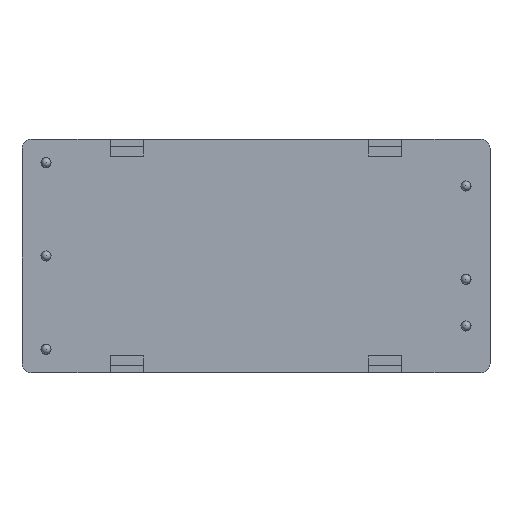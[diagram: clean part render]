
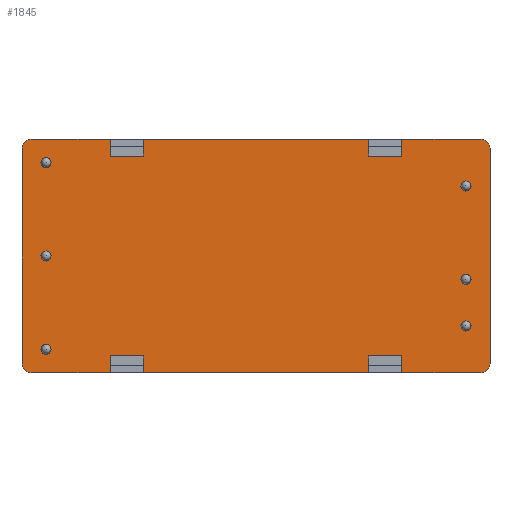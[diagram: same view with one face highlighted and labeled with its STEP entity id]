
A CAD part, top view. The second image highlights one B-rep face of the part: STEP entity #1845.
In plain terms, the highlighted planar face has unit normal (0, 0, 1).
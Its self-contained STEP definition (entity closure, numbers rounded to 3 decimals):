
#73=LINE('',#2714,#257);
#76=LINE('',#2719,#260);
#81=LINE('',#2728,#265);
#89=LINE('',#2746,#273);
#92=LINE('',#2751,#276);
#97=LINE('',#2760,#281);
#105=LINE('',#2777,#289);
#109=LINE('',#2785,#293);
#112=LINE('',#2790,#296);
#121=LINE('',#2809,#305);
#126=LINE('',#2819,#310);
#130=LINE('',#2825,#314);
#133=LINE('',#2831,#317);
#134=LINE('',#2834,#318);
#138=LINE('',#2840,#322);
#141=LINE('',#2846,#325);
#142=LINE('',#2849,#326);
#146=LINE('',#2855,#330);
#181=LINE('',#3001,#365);
#185=LINE('',#3012,#369);
#257=VECTOR('',#2183,3.6);
#260=VECTOR('',#2188,1.85);
#265=VECTOR('',#2195,1.85);
#273=VECTOR('',#2207,3.6);
#276=VECTOR('',#2212,1.85);
#281=VECTOR('',#2219,1.85);
#289=VECTOR('',#2231,1.85);
#293=VECTOR('',#2237,3.6);
#296=VECTOR('',#2242,1.85);
#305=VECTOR('',#2255,1.85);
#310=VECTOR('',#2262,1.85);
#314=VECTOR('',#2268,3.6);
#317=VECTOR('',#2273,8.6);
#318=VECTOR('',#2276,8.6);
#322=VECTOR('',#2282,24.5);
#325=VECTOR('',#2287,8.6);
#326=VECTOR('',#2290,8.6);
#330=VECTOR('',#2296,24.5);
#365=VECTOR('',#2461,23.4);
#369=VECTOR('',#2475,23.4);
#441=PLANE('',#2005);
#485=FACE_BOUND('',#714,.T.);
#486=FACE_BOUND('',#715,.T.);
#487=FACE_BOUND('',#716,.T.);
#488=FACE_BOUND('',#717,.T.);
#489=FACE_BOUND('',#718,.T.);
#490=FACE_BOUND('',#719,.T.);
#579=FACE_OUTER_BOUND('',#713,.T.);
#713=EDGE_LOOP('',(#1615,#1616,#1617,#1618,#1619,#1620,#1621,#1622,#1623,
#1624,#1625,#1626,#1627,#1628,#1629,#1630,#1631,#1632,#1633,#1634,#1635,
#1636,#1637,#1638));
#714=EDGE_LOOP('',(#1639));
#715=EDGE_LOOP('',(#1640));
#716=EDGE_LOOP('',(#1641));
#717=EDGE_LOOP('',(#1642));
#718=EDGE_LOOP('',(#1643));
#719=EDGE_LOOP('',(#1644));
#758=CIRCLE('',#1945,0.55);
#760=CIRCLE('',#1948,0.55);
#762=CIRCLE('',#1951,0.55);
#764=CIRCLE('',#1954,0.55);
#766=CIRCLE('',#1957,0.55);
#768=CIRCLE('',#1960,0.55);
#785=CIRCLE('',#1997,1.025);
#786=CIRCLE('',#1999,1.025);
#787=CIRCLE('',#2002,1.025);
#788=CIRCLE('',#2004,1.025);
#855=VERTEX_POINT('',#2711);
#856=VERTEX_POINT('',#2713);
#857=VERTEX_POINT('',#2718);
#860=VERTEX_POINT('',#2726);
#867=VERTEX_POINT('',#2743);
#868=VERTEX_POINT('',#2745);
#869=VERTEX_POINT('',#2750);
#872=VERTEX_POINT('',#2758);
#878=VERTEX_POINT('',#2774);
#879=VERTEX_POINT('',#2776);
#882=VERTEX_POINT('',#2784);
#883=VERTEX_POINT('',#2789);
#890=VERTEX_POINT('',#2806);
#891=VERTEX_POINT('',#2808);
#894=VERTEX_POINT('',#2816);
#895=VERTEX_POINT('',#2818);
#898=VERTEX_POINT('',#2829);
#899=VERTEX_POINT('',#2833);
#902=VERTEX_POINT('',#2844);
#903=VERTEX_POINT('',#2848);
#918=VERTEX_POINT('',#2893);
#920=VERTEX_POINT('',#2898);
#922=VERTEX_POINT('',#2903);
#924=VERTEX_POINT('',#2908);
#926=VERTEX_POINT('',#2913);
#928=VERTEX_POINT('',#2918);
#949=VERTEX_POINT('',#2999);
#950=VERTEX_POINT('',#3000);
#951=VERTEX_POINT('',#3007);
#952=VERTEX_POINT('',#3011);
#1035=EDGE_CURVE('',#856,#855,#73,.T.);
#1038=EDGE_CURVE('',#857,#856,#76,.T.);
#1043=EDGE_CURVE('',#855,#860,#81,.T.);
#1051=EDGE_CURVE('',#868,#867,#89,.T.);
#1054=EDGE_CURVE('',#869,#868,#92,.T.);
#1059=EDGE_CURVE('',#867,#872,#97,.T.);
#1067=EDGE_CURVE('',#879,#878,#105,.T.);
#1071=EDGE_CURVE('',#882,#879,#109,.T.);
#1074=EDGE_CURVE('',#883,#882,#112,.T.);
#1083=EDGE_CURVE('',#891,#890,#121,.T.);
#1088=EDGE_CURVE('',#895,#894,#126,.T.);
#1092=EDGE_CURVE('',#890,#895,#130,.T.);
#1095=EDGE_CURVE('',#898,#872,#133,.T.);
#1096=EDGE_CURVE('',#857,#899,#134,.T.);
#1100=EDGE_CURVE('',#869,#860,#138,.T.);
#1103=EDGE_CURVE('',#902,#894,#141,.T.);
#1104=EDGE_CURVE('',#883,#903,#142,.T.);
#1108=EDGE_CURVE('',#891,#878,#146,.T.);
#1128=EDGE_CURVE('',#918,#918,#758,.T.);
#1130=EDGE_CURVE('',#920,#920,#760,.T.);
#1132=EDGE_CURVE('',#922,#922,#762,.T.);
#1134=EDGE_CURVE('',#924,#924,#764,.T.);
#1136=EDGE_CURVE('',#926,#926,#766,.T.);
#1138=EDGE_CURVE('',#928,#928,#768,.T.);
#1179=EDGE_CURVE('',#949,#950,#181,.T.);
#1182=EDGE_CURVE('',#950,#898,#785,.T.);
#1183=EDGE_CURVE('',#899,#951,#786,.T.);
#1185=EDGE_CURVE('',#951,#952,#185,.T.);
#1187=EDGE_CURVE('',#952,#902,#787,.T.);
#1188=EDGE_CURVE('',#903,#949,#788,.T.);
#1615=ORIENTED_EDGE('',*,*,#1043,.T.);
#1616=ORIENTED_EDGE('',*,*,#1100,.F.);
#1617=ORIENTED_EDGE('',*,*,#1054,.T.);
#1618=ORIENTED_EDGE('',*,*,#1051,.T.);
#1619=ORIENTED_EDGE('',*,*,#1059,.T.);
#1620=ORIENTED_EDGE('',*,*,#1095,.F.);
#1621=ORIENTED_EDGE('',*,*,#1182,.F.);
#1622=ORIENTED_EDGE('',*,*,#1179,.F.);
#1623=ORIENTED_EDGE('',*,*,#1188,.F.);
#1624=ORIENTED_EDGE('',*,*,#1104,.F.);
#1625=ORIENTED_EDGE('',*,*,#1074,.T.);
#1626=ORIENTED_EDGE('',*,*,#1071,.T.);
#1627=ORIENTED_EDGE('',*,*,#1067,.T.);
#1628=ORIENTED_EDGE('',*,*,#1108,.F.);
#1629=ORIENTED_EDGE('',*,*,#1083,.T.);
#1630=ORIENTED_EDGE('',*,*,#1092,.T.);
#1631=ORIENTED_EDGE('',*,*,#1088,.T.);
#1632=ORIENTED_EDGE('',*,*,#1103,.F.);
#1633=ORIENTED_EDGE('',*,*,#1187,.F.);
#1634=ORIENTED_EDGE('',*,*,#1185,.F.);
#1635=ORIENTED_EDGE('',*,*,#1183,.F.);
#1636=ORIENTED_EDGE('',*,*,#1096,.F.);
#1637=ORIENTED_EDGE('',*,*,#1038,.T.);
#1638=ORIENTED_EDGE('',*,*,#1035,.T.);
#1639=ORIENTED_EDGE('',*,*,#1128,.T.);
#1640=ORIENTED_EDGE('',*,*,#1130,.T.);
#1641=ORIENTED_EDGE('',*,*,#1132,.T.);
#1642=ORIENTED_EDGE('',*,*,#1134,.T.);
#1643=ORIENTED_EDGE('',*,*,#1136,.T.);
#1644=ORIENTED_EDGE('',*,*,#1138,.T.);
#1845=ADVANCED_FACE('',(#579,#485,#486,#487,#488,#489,#490),#441,.T.);
#1945=AXIS2_PLACEMENT_3D('',#2894,#2335,#2336);
#1948=AXIS2_PLACEMENT_3D('',#2899,#2341,#2342);
#1951=AXIS2_PLACEMENT_3D('',#2904,#2347,#2348);
#1954=AXIS2_PLACEMENT_3D('',#2909,#2353,#2354);
#1957=AXIS2_PLACEMENT_3D('',#2914,#2359,#2360);
#1960=AXIS2_PLACEMENT_3D('',#2919,#2365,#2366);
#1997=AXIS2_PLACEMENT_3D('',#3005,#2466,#2467);
#1999=AXIS2_PLACEMENT_3D('',#3008,#2470,#2471);
#2002=AXIS2_PLACEMENT_3D('',#3015,#2479,#2480);
#2004=AXIS2_PLACEMENT_3D('',#3017,#2483,#2484);
#2005=AXIS2_PLACEMENT_3D('',#3018,#2485,#2486);
#2183=DIRECTION('',(1.,0.,0.));
#2188=DIRECTION('',(0.,1.,0.));
#2195=DIRECTION('',(0.,-1.,0.));
#2207=DIRECTION('',(1.,0.,0.));
#2212=DIRECTION('',(0.,1.,0.));
#2219=DIRECTION('',(0.,-1.,0.));
#2231=DIRECTION('',(0.,1.,0.));
#2237=DIRECTION('',(-1.,0.,0.));
#2242=DIRECTION('',(0.,-1.,0.));
#2255=DIRECTION('',(0.,-1.,0.));
#2262=DIRECTION('',(0.,1.,0.));
#2268=DIRECTION('',(-1.,0.,0.));
#2273=DIRECTION('',(-1.,0.,0.));
#2276=DIRECTION('',(-1.,0.,0.));
#2282=DIRECTION('',(-1.,0.,0.));
#2287=DIRECTION('',(1.,0.,0.));
#2290=DIRECTION('',(1.,0.,0.));
#2296=DIRECTION('',(1.,0.,0.));
#2335=DIRECTION('center_axis',(0.,0.,
-1.));
#2336=DIRECTION('ref_axis',(-1.,0.,0.));
#2341=DIRECTION('center_axis',(0.,0.,
-1.));
#2342=DIRECTION('ref_axis',(-1.,0.,0.));
#2347=DIRECTION('center_axis',(0.,0.,
-1.));
#2348=DIRECTION('ref_axis',(-1.,0.,0.));
#2353=DIRECTION('center_axis',(0.,0.,
-1.));
#2354=DIRECTION('ref_axis',(-1.,0.,0.));
#2359=DIRECTION('center_axis',(0.,0.,
-1.));
#2360=DIRECTION('ref_axis',(-1.,0.,0.));
#2365=DIRECTION('center_axis',(0.,0.,
-1.));
#2366=DIRECTION('ref_axis',(-1.,0.,0.));
#2461=DIRECTION('',(0.,-1.,0.));
#2466=DIRECTION('center_axis',(0.,0.,-1.));
#2467=DIRECTION('ref_axis',(0.,1.,0.));
#2470=DIRECTION('center_axis',(0.,0.,-1.));
#2471=DIRECTION('ref_axis',(1.,0.,0.));
#2475=DIRECTION('',(0.,1.,0.));
#2479=DIRECTION('center_axis',(0.,0.,-1.));
#2480=DIRECTION('ref_axis',(0.,-1.,0.));
#2483=DIRECTION('center_axis',(0.,0.,-1.));
#2484=DIRECTION('ref_axis',(-1.,0.,0.));
#2485=DIRECTION('center_axis',(0.,0.,
1.));
#2486=DIRECTION('ref_axis',(1.,0.,0.));
#2711=CARTESIAN_POINT('',(-12.25,-10.875,11.));
#2713=CARTESIAN_POINT('',(-15.85,-10.875,11.));
#2714=CARTESIAN_POINT('',(-6.125,-10.875,11.));
#2718=CARTESIAN_POINT('',(-15.85,-12.725,11.));
#2719=CARTESIAN_POINT('',(-15.85,-5.438,11.));
#2726=CARTESIAN_POINT('',(-12.25,-12.725,11.));
#2728=CARTESIAN_POINT('',(-12.25,-6.363,11.));
#2743=CARTESIAN_POINT('',(15.85,-10.875,11.));
#2745=CARTESIAN_POINT('',(12.25,-10.875,11.));
#2746=CARTESIAN_POINT('',(7.925,-10.875,11.));
#2750=CARTESIAN_POINT('',(12.25,-12.725,11.));
#2751=CARTESIAN_POINT('',(12.25,-5.438,11.));
#2758=CARTESIAN_POINT('',(15.85,-12.725,11.));
#2760=CARTESIAN_POINT('',(15.85,-6.363,11.));
#2774=CARTESIAN_POINT('',(12.25,12.725,11.));
#2776=CARTESIAN_POINT('',(12.25,10.875,11.));
#2777=CARTESIAN_POINT('',(12.25,6.363,11.));
#2784=CARTESIAN_POINT('',(15.85,10.875,11.));
#2785=CARTESIAN_POINT('',(6.125,10.875,11.));
#2789=CARTESIAN_POINT('',(15.85,12.725,11.));
#2790=CARTESIAN_POINT('',(15.85,5.438,11.));
#2806=CARTESIAN_POINT('',(-12.25,10.875,11.));
#2808=CARTESIAN_POINT('',(-12.25,12.725,11.));
#2809=CARTESIAN_POINT('',(-12.25,5.438,11.));
#2816=CARTESIAN_POINT('',(-15.85,12.725,11.));
#2818=CARTESIAN_POINT('',(-15.85,10.875,11.));
#2819=CARTESIAN_POINT('',(-15.85,6.363,11.));
#2825=CARTESIAN_POINT('',(-7.925,10.875,11.));
#2829=CARTESIAN_POINT('',(24.45,-12.725,11.));
#2831=CARTESIAN_POINT('',(24.45,-12.725,11.));
#2833=CARTESIAN_POINT('',(-24.45,-12.725,11.));
#2834=CARTESIAN_POINT('',(24.45,-12.725,11.));
#2840=CARTESIAN_POINT('',(24.45,-12.725,11.));
#2844=CARTESIAN_POINT('',(-24.45,12.725,11.));
#2846=CARTESIAN_POINT('',(-24.45,12.725,11.));
#2848=CARTESIAN_POINT('',(24.45,12.725,11.));
#2849=CARTESIAN_POINT('',(-24.45,12.725,11.));
#2855=CARTESIAN_POINT('',(-24.45,12.725,11.));
#2893=CARTESIAN_POINT('',(-22.31,0.,11.));
#2894=CARTESIAN_POINT('Origin',(-22.86,0.,11.));
#2898=CARTESIAN_POINT('',(23.41,-7.62,11.));
#2899=CARTESIAN_POINT('Origin',(22.86,-7.62,11.));
#2903=CARTESIAN_POINT('',(23.41,7.62,11.));
#2904=CARTESIAN_POINT('Origin',(22.86,7.62,11.));
#2908=CARTESIAN_POINT('',(23.41,-2.54,11.));
#2909=CARTESIAN_POINT('Origin',(22.86,-2.54,11.));
#2913=CARTESIAN_POINT('',(-22.31,10.16,11.));
#2914=CARTESIAN_POINT('Origin',(-22.86,10.16,11.));
#2918=CARTESIAN_POINT('',(-22.31,-10.16,11.));
#2919=CARTESIAN_POINT('Origin',(-22.86,-10.16,11.));
#2999=CARTESIAN_POINT('',(25.475,11.7,11.));
#3000=CARTESIAN_POINT('',(25.475,-11.7,11.));
#3001=CARTESIAN_POINT('',(25.475,11.7,11.));
#3005=CARTESIAN_POINT('Origin',(24.45,-11.7,11.));
#3007=CARTESIAN_POINT('',(-25.475,-11.7,11.));
#3008=CARTESIAN_POINT('Origin',(-24.45,-11.7,11.));
#3011=CARTESIAN_POINT('',(-25.475,11.7,11.));
#3012=CARTESIAN_POINT('',(-25.475,-11.7,11.));
#3015=CARTESIAN_POINT('Origin',(-24.45,11.7,11.));
#3017=CARTESIAN_POINT('Origin',(24.45,11.7,11.));
#3018=CARTESIAN_POINT('Origin',(0.,0.,11.));
